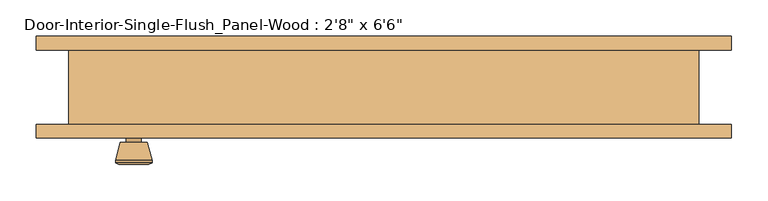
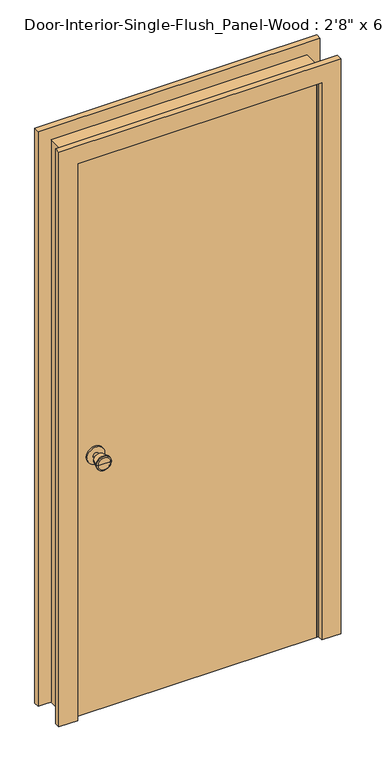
"""IFC4 building model written with IfcOpenShell, lengths in millimetres: door geometry."""

from ifc_helpers import new_model, si_unit, point, frame, frame_2d, origin, origin_with_axes, place, context, project, spatial, polyline, circle_curve, trimmed, segment, composite_curve, outline, extrude, faceted_brep, source, transform, mapped, element, save
from ifc_brep_helpers import plane_surface, cylinder_surface, revolved_surface, advanced_brep


def door_dadb3f6d(model_context):
    return source(origin(), model_context, "Body", "SolidModel", [
        advanced_brep(
        [(-342.9, -6.7, 914.4), (-352.9, -6.7, 914.4), (-332.9, -6.7, 914.4), (-322.4241324, 42.3, 914.4), (-363.3758676, 42.3, 914.4), (-342.9, 42.3, 914.4), (-317.9, 40.4721319, 914.4), (-367.9, 40.4721319, 914.4), (-317.9, 37.0084537, 914.4), (-367.9, 37.0084537, 914.4), (-324.263764, 12.3, 914.4), (-361.536236, 12.3, 914.4), (-332.9, 12.3, 914.4), (-352.9, 12.3, 914.4)],
        [
            (0, 1),
            (1, 2, circle_curve(frame((-342.9, -6.7, 914.4), z_axis=(0.0, -1.0, 0.0), x_axis=(-1.0, 0.0, 0.0)), 10.0)),
            (2, 0),
            (2, 1, circle_curve(frame((-342.9, -6.7, 914.4), z_axis=(0.0, -1.0, 0.0), x_axis=(-1.0, 0.0, 0.0)), 10.0)),
            (3, 4, circle_curve(frame((-342.9, 42.3, 914.4), z_axis=(0.0, 1.0, 0.0), x_axis=(-1.0, 0.0, 0.0)), 20.4758676)),
            (4, 5),
            (5, 3),
            (4, 3, circle_curve(frame((-342.9, 42.3, 914.4), z_axis=(0.0, 1.0, 0.0), x_axis=(-1.0, 0.0, 0.0)), 20.4758676)),
            (6, 7, circle_curve(frame((-342.9, 40.4721319, 914.4), z_axis=(0.0, 1.0, 0.0), x_axis=(-1.0, 0.0, 0.0)), 25.0)),
            (7, 4),
            (3, 6),
            (7, 6, circle_curve(frame((-342.9, 40.4721319, 914.4), z_axis=(0.0, 1.0, 0.0), x_axis=(-1.0, 0.0, 0.0)), 25.0)),
            (8, 9, circle_curve(frame((-342.9, 37.0084537, 914.4), z_axis=(0.0, 1.0, 0.0), x_axis=(-1.0, 0.0, 0.0)), 25.0)),
            (9, 7),
            (6, 8),
            (9, 8, circle_curve(frame((-342.9, 37.0084537, 914.4), z_axis=(0.0, 1.0, 0.0), x_axis=(-1.0, 0.0, 0.0)), 25.0)),
            (10, 11, circle_curve(frame((-342.9, 12.3, 914.4), z_axis=(0.0, 1.0, 0.0), x_axis=(-1.0, 0.0, 0.0)), 18.636236)),
            (11, 9),
            (8, 10),
            (11, 10, circle_curve(frame((-342.9, 12.3, 914.4), z_axis=(0.0, 1.0, 0.0), x_axis=(-1.0, 0.0, 0.0)), 18.636236)),
            (12, 13, circle_curve(frame((-342.9, 12.3, 914.4), z_axis=(0.0, 1.0, 0.0), x_axis=(-1.0, 0.0, 0.0)), 10.0)),
            (13, 11),
            (10, 12),
            (13, 12, circle_curve(frame((-342.9, 12.3, 914.4), z_axis=(0.0, 1.0, 0.0), x_axis=(-1.0, 0.0, 0.0)), 10.0)),
            (1, 13),
            (12, 2),
        ],
        [
            plane_surface(frame((-342.9, -6.7, 914.4), z_axis=(0.0, -1.0, 0.0), x_axis=(-1.0, 0.0, 0.0))),
            plane_surface(frame((-342.9, 42.3, 914.4), z_axis=(0.0, 1.0, 0.0), x_axis=(-1.0, 0.0, 0.0))),
            revolved_surface(polyline([(-363.3758676, 42.3, 914.4), (-367.9, 40.4721319, 914.4)]), (-342.9, -6.7, 914.4), (0.0, -1.0, 0.0)),
            cylinder_surface(frame((-342.9, -6.7, 914.4), z_axis=(0.0, -1.0, 0.0), x_axis=(-1.0, 0.0, 0.0)), 25.0),
            revolved_surface(polyline([(-367.9, 37.0084537, 914.4), (-361.536236, 12.3, 914.4)]), (-342.9, -6.7, 914.4), (0.0, -1.0, 0.0)),
            plane_surface(frame((-342.9, 12.3, 914.4), z_axis=(0.0, -1.0, 0.0), x_axis=(-1.0, 0.0, 0.0))),
            cylinder_surface(frame((-342.9, -6.7, 914.4), z_axis=(0.0, -1.0, 0.0), x_axis=(-1.0, 0.0, 0.0)), 10.0),
        ],
        [
            (0, [[1, 2, 3]]),
            (0, [[-3, 4, -1]]),
            (1, [[5, 6, 7]]),
            (1, [[8, -7, -6]]),
            (2, [[9, 10, -5, 11]]),
            (2, [[12, -11, -8, -10]]),
            (3, [[13, 14, -9, 15]]),
            (3, [[16, -15, -12, -14]]),
            (4, [[17, 18, -13, 19]]),
            (4, [[20, -19, -16, -18]]),
            (5, [[21, 22, -17, 23]]),
            (5, [[24, -23, -20, -22]]),
            (6, [[-2, 25, -21, 26]]),
            (6, [[-4, -26, -24, -25]]),
        ],
    ),
        extrude(outline(composite_curve([segment(trimmed(circle_curve(frame_2d((914.4, -342.9)), 30.0), [point((914.4, -372.9))], [point((914.4, -312.9))], False, "CARTESIAN"), True, "CONTINUOUS"), segment(trimmed(circle_curve(frame_2d((914.4, -342.9)), 30.0), [point((914.4, -312.9))], [point((914.4, -372.9))], False, "CARTESIAN"), True, "CONTINUOUS")], self_intersect=False)), frame((0.0, -12.7, 0.0), z_axis=(0.0, 1.0, 0.0), x_axis=(0.0, 0.0, 1.0)), (0.0, 0.0, 1.0), 6.0),
        advanced_brep(
        [(-342.9, -53.625, 914.4), (-332.9, -53.625, 914.4), (-352.9, -53.625, 914.4), (-322.4241324, -102.625, 914.4), (-342.9, -102.625, 914.4), (-363.3758676, -102.625, 914.4), (-317.9, -100.7971319, 914.4), (-367.9, -100.7971319, 914.4), (-317.9, -97.3334537, 914.4), (-367.9, -97.3334537, 914.4), (-324.263764, -72.625, 914.4), (-361.536236, -72.625, 914.4), (-332.9, -72.625, 914.4), (-352.9, -72.625, 914.4)],
        [
            (0, 1),
            (1, 2, circle_curve(frame((-342.9, -53.625, 914.4), z_axis=(0.0, 1.0, 0.0), x_axis=(-1.0, 0.0, 0.0)), 10.0)),
            (2, 0),
            (2, 1, circle_curve(frame((-342.9, -53.625, 914.4), z_axis=(0.0, 1.0, 0.0), x_axis=(-1.0, 0.0, 0.0)), 10.0)),
            (3, 4),
            (4, 5),
            (5, 3, circle_curve(frame((-342.9, -102.625, 914.4), z_axis=(0.0, -1.0, 0.0), x_axis=(-1.0, 0.0, 0.0)), 20.4758676)),
            (3, 5, circle_curve(frame((-342.9, -102.625, 914.4), z_axis=(0.0, -1.0, 0.0), x_axis=(-1.0, 0.0, 0.0)), 20.4758676)),
            (6, 3),
            (5, 7),
            (7, 6, circle_curve(frame((-342.9, -100.7971319, 914.4), z_axis=(0.0, -1.0, 0.0), x_axis=(-1.0, 0.0, 0.0)), 25.0)),
            (6, 7, circle_curve(frame((-342.9, -100.7971319, 914.4), z_axis=(0.0, -1.0, 0.0), x_axis=(-1.0, 0.0, 0.0)), 25.0)),
            (8, 6),
            (7, 9),
            (9, 8, circle_curve(frame((-342.9, -97.3334537, 914.4), z_axis=(0.0, -1.0, 0.0), x_axis=(-1.0, 0.0, 0.0)), 25.0)),
            (8, 9, circle_curve(frame((-342.9, -97.3334537, 914.4), z_axis=(0.0, -1.0, 0.0), x_axis=(-1.0, 0.0, 0.0)), 25.0)),
            (10, 8),
            (9, 11),
            (11, 10, circle_curve(frame((-342.9, -72.625, 914.4), z_axis=(0.0, -1.0, 0.0), x_axis=(-1.0, 0.0, 0.0)), 18.636236)),
            (10, 11, circle_curve(frame((-342.9, -72.625, 914.4), z_axis=(0.0, -1.0, 0.0), x_axis=(-1.0, 0.0, 0.0)), 18.636236)),
            (12, 10),
            (11, 13),
            (13, 12, circle_curve(frame((-342.9, -72.625, 914.4), z_axis=(0.0, -1.0, 0.0), x_axis=(-1.0, 0.0, 0.0)), 10.0)),
            (12, 13, circle_curve(frame((-342.9, -72.625, 914.4), z_axis=(0.0, -1.0, 0.0), x_axis=(-1.0, 0.0, 0.0)), 10.0)),
            (1, 12),
            (13, 2),
        ],
        [
            plane_surface(frame((-342.9, -53.625, 914.4), z_axis=(0.0, 1.0, 0.0), x_axis=(-1.0, 0.0, 0.0))),
            plane_surface(frame((-342.9, -102.625, 914.4), z_axis=(0.0, -1.0, 0.0), x_axis=(-1.0, 0.0, 0.0))),
            revolved_surface(polyline([(-363.3758676, -102.625, 914.4), (-367.9, -100.7971319, 914.4)]), (-342.9, -53.625, 914.4), (0.0, 1.0, 0.0)),
            cylinder_surface(frame((-342.9, -53.625, 914.4), z_axis=(0.0, 1.0, 0.0), x_axis=(-1.0, 0.0, 0.0)), 25.0),
            revolved_surface(polyline([(-367.9, -97.3334537, 914.4), (-361.536236, -72.625, 914.4)]), (-342.9, -53.625, 914.4), (0.0, 1.0, 0.0)),
            plane_surface(frame((-342.9, -72.625, 914.4), z_axis=(0.0, 1.0, 0.0), x_axis=(-1.0, 0.0, 0.0))),
            cylinder_surface(frame((-342.9, -53.625, 914.4), z_axis=(0.0, 1.0, 0.0), x_axis=(-1.0, 0.0, 0.0)), 10.0),
        ],
        [
            (0, [[1, 2, 3]]),
            (0, [[-3, 4, -1]]),
            (1, [[5, 6, 7]]),
            (1, [[-6, -5, 8]]),
            (2, [[9, -7, 10, 11]]),
            (2, [[-10, -8, -9, 12]]),
            (3, [[13, -11, 14, 15]]),
            (3, [[-14, -12, -13, 16]]),
            (4, [[17, -15, 18, 19]]),
            (4, [[-18, -16, -17, 20]]),
            (5, [[21, -19, 22, 23]]),
            (5, [[-22, -20, -21, 24]]),
            (6, [[25, -23, 26, -2]]),
            (6, [[-26, -24, -25, -4]]),
        ],
    ),
        extrude(outline(composite_curve([segment(trimmed(circle_curve(frame_2d((914.4, -342.9)), 30.0), [point((914.4, -372.9))], [point((914.4, -312.9))], False, "CARTESIAN"), True, "CONTINUOUS"), segment(trimmed(circle_curve(frame_2d((914.4, -342.9)), 30.0), [point((914.4, -312.9))], [point((914.4, -372.9))], False, "CARTESIAN"), True, "CONTINUOUS")], self_intersect=False)), frame((0.0, -53.625, 0.0), z_axis=(0.0, 1.0, 0.0), x_axis=(0.0, 0.0, 1.0)), (0.0, 0.0, 1.0), 6.0),
        extrude(outline(polyline([(406.4, -12.7), (406.4, -47.625), (-406.4, -47.625), (-406.4, -12.7), (406.4, -12.7)])), origin_with_axes(), (0.0, 0.0, 1.0), 1981.2),
        faceted_brep([(431.8, -47.625, 0.0), (406.4, -47.625, 0.0), (406.4, -12.7, 0.0), (393.7, -12.7, 0.0), (393.7, 22.225, 0.0), (406.4, 22.225, 0.0), (406.4, 53.975, 0.0), (431.8, 53.975, 0.0), (431.8, 53.975, 2006.6), (431.8, -47.625, 2006.6), (406.4, 53.975, 1981.2), (-406.4, 53.975, 1981.2), (-406.4, 53.975, 0.0), (-431.8, 53.975, 0.0), (-431.8, 53.975, 2006.6), (406.4, 22.225, 1981.2), (393.7, 22.225, 1968.5), (-393.7, 22.225, 1968.5), (-393.7, 22.225, 0.0), (-406.4, 22.225, 0.0), (-406.4, 22.225, 1981.2), (393.7, -12.7, 1968.5), (406.4, -12.7, 1981.2), (-406.4, -12.7, 1981.2), (-406.4, -12.7, 0.0), (-393.7, -12.7, 0.0), (-393.7, -12.7, 1968.5), (406.4, -47.625, 1981.2), (-431.8, -47.625, 2006.6), (-431.8, -47.625, 0.0), (-406.4, -47.625, 0.0), (-406.4, -47.625, 1981.2)], [[[0, 1, 2, 3, 4, 5, 6, 7]], [[7, 8, 9, 0]], [[6, 10, 11, 12, 13, 14, 8, 7]], [[5, 15, 10, 6]], [[4, 16, 17, 18, 19, 20, 15, 5]], [[3, 21, 16, 4]], [[2, 22, 23, 24, 25, 26, 21, 3]], [[1, 27, 22, 2]], [[0, 9, 28, 29, 30, 31, 27, 1]], [[8, 14, 28, 9]], [[15, 20, 11, 10]], [[21, 26, 17, 16]], [[27, 31, 23, 22]], [[29, 13, 12, 19, 18, 25, 24, 30]], [[14, 13, 29, 28]], [[20, 19, 12, 11]], [[26, 25, 18, 17]], [[31, 30, 24, 23]]]),
        extrude(outline(polyline([(0.0, 476.25), (2051.05, 476.25), (2051.05, -476.25), (0.0, -476.25), (0.0, -412.75), (1987.55, -412.75), (1987.55, 412.75), (0.0, 412.75), (0.0, 476.25)])), frame((0.0, 53.975, 0.0), z_axis=(0.0, 1.0, 0.0), x_axis=(0.0, 0.0, 1.0)), (0.0, 0.0, 1.0), 19.05),
        extrude(outline(polyline([(0.0, 476.25), (2051.05, 476.25), (2051.05, -476.25), (0.0, -476.25), (0.0, -412.75), (1987.55, -412.75), (1987.55, 412.75), (0.0, 412.75), (0.0, 476.25)])), frame((0.0, -66.675, 0.0), z_axis=(0.0, 1.0, 0.0), x_axis=(0.0, 0.0, 1.0)), (0.0, 0.0, 1.0), 19.05),
    ])


if __name__ == "__main__":
    model = new_model("IFC4")
    model_context = context("Model", 3, world=origin())
    ifc_project = project(units=[si_unit("LENGTHUNIT", "METRE", prefix="MILLI")], contexts=[model_context])
    site = spatial("IfcSite", under=ifc_project)
    building = spatial("IfcBuilding", under=site)
    placement = place(None, origin())
    door_shape = door_dadb3f6d(model_context)
    element("IfcDoor", 1, ObjectType="Door-Interior-Single-Flush_Panel-Wood : 2'8\" x 6'6\"", at=placement, inside=building, context=model_context, shape_type="MappedRepresentation", body=[
        mapped(door_shape, transform((0.0, 0.0, 0.0), x_axis=(1.0, 0.0, 0.0), y_axis=(0.0, 1.0, 0.0), z_axis=(0.0, 0.0, 1.0))),
    ])
    save(model, "model.ifc")
